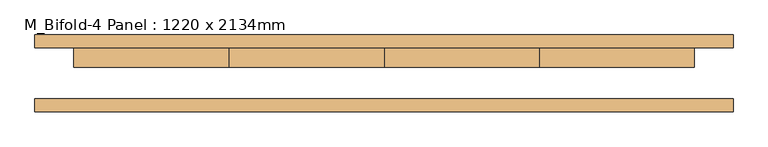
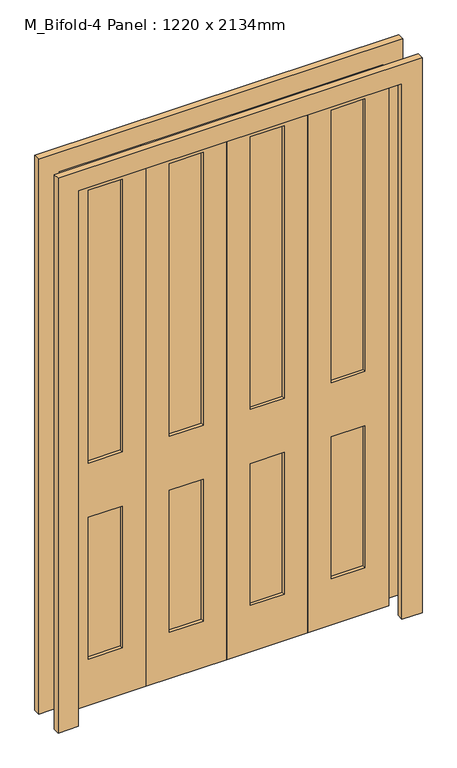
"""IFC4 building model written with IfcOpenShell, lengths in millimetres: door geometry, M_Bifold-4 Panel : 1220 x 2134mm."""

from ifc_helpers import new_model, si_unit, frame, origin, place, context, project, spatial, polyline, outline, extrude, source, transform, mapped, element, save


def m_bifold_4_panel_1220_x_2134mm_c9b228a8(model_context):
    return source(origin(), model_context, "Body", "SweptSolid", [
        extrude(outline(polyline([(393.9, 37.3), (521.1, 37.3), (521.1, 24.6), (393.9, 24.6), (393.9, 37.3)])), frame((0.0, 0.0, 965.2), z_axis=(0.0, 0.0, 1.0), x_axis=(1.0, 0.0, 0.0)), (0.0, 0.0, 1.0), 1086.25),
        extrude(outline(polyline([(393.9, 37.3), (521.1, 37.3), (521.1, 24.6), (393.9, 24.6), (393.9, 37.3)])), frame((0.0, 0.0, 184.15), z_axis=(0.0, 0.0, 1.0), x_axis=(1.0, 0.0, 0.0)), (0.0, 0.0, 1.0), 565.15),
        extrude(outline(polyline([(88.9, 37.3), (216.1, 37.3), (216.1, 24.6), (88.9, 24.6), (88.9, 37.3)])), frame((0.0, 0.0, 965.2), z_axis=(0.0, 0.0, 1.0), x_axis=(1.0, 0.0, 0.0)), (0.0, 0.0, 1.0), 1086.25),
        extrude(outline(polyline([(88.9, 37.3), (216.1, 37.3), (216.1, 24.6), (88.9, 24.6), (88.9, 37.3)])), frame((0.0, 0.0, 184.15), z_axis=(0.0, 0.0, 1.0), x_axis=(1.0, 0.0, 0.0)), (0.0, 0.0, 1.0), 565.15),
        extrude(outline(polyline([(-216.1, 37.3), (-88.9, 37.3), (-88.9, 24.6), (-216.1, 24.6), (-216.1, 37.3)])), frame((0.0, 0.0, 184.15), z_axis=(0.0, 0.0, 1.0), x_axis=(1.0, 0.0, 0.0)), (0.0, 0.0, 1.0), 565.15),
        extrude(outline(polyline([(-216.1, 37.3), (-88.9, 37.3), (-88.9, 24.6), (-216.1, 24.6), (-216.1, 37.3)])), frame((0.0, 0.0, 965.2), z_axis=(0.0, 0.0, 1.0), x_axis=(1.0, 0.0, 0.0)), (0.0, 0.0, 1.0), 1086.25),
        extrude(outline(polyline([(-521.1, 37.3), (-393.9, 37.3), (-393.9, 24.6), (-521.1, 24.6), (-521.1, 37.3)])), frame((0.0, 0.0, 965.2), z_axis=(0.0, 0.0, 1.0), x_axis=(1.0, 0.0, 0.0)), (0.0, 0.0, 1.0), 1086.25),
        extrude(outline(polyline([(-521.1, 37.3), (-393.9, 37.3), (-393.9, 24.6), (-521.1, 24.6), (-521.1, 37.3)])), frame((0.0, 0.0, 184.15), z_axis=(0.0, 0.0, 1.0), x_axis=(1.0, 0.0, 0.0)), (0.0, 0.0, 1.0), 565.15),
        extrude(outline(polyline([(0.0, 686.0), (2210.0, 686.0), (2210.0, -686.0), (0.0, -686.0), (0.0, -610.0), (2134.0, -610.0), (2134.0, 610.0), (0.0, 610.0), (0.0, 686.0)])), frame((0.0, -75.4, 0.0), z_axis=(0.0, 1.0, 0.0), x_axis=(0.0, 0.0, 1.0)), (0.0, 0.0, 1.0), 25.4),
        extrude(outline(polyline([(0.0, 686.0), (2210.0, 686.0), (2210.0, -686.0), (0.0, -686.0), (0.0, -610.0), (2134.0, -610.0), (2134.0, 610.0), (0.0, 610.0), (0.0, 686.0)])), frame((0.0, 50.0, 0.0), z_axis=(0.0, 1.0, 0.0), x_axis=(0.0, 0.0, 1.0)), (0.0, 0.0, 1.0), 25.4),
        extrude(outline(polyline([(0.0, -610.0), (0.0, -305.0), (2134.0, -305.0), (2134.0, -610.0), (0.0, -610.0)]), holes=[polyline([(2051.45, -521.1), (2051.45, -393.9), (965.2, -393.9), (965.2, -521.1), (2051.45, -521.1)]), polyline([(749.3, -521.1), (749.3, -393.9), (184.15, -393.9), (184.15, -521.1), (749.3, -521.1)])]), frame((0.0, 11.9, 0.0), z_axis=(0.0, 1.0, 0.0), x_axis=(0.0, 0.0, 1.0)), (0.0, 0.0, 1.0), 38.1),
        extrude(outline(polyline([(0.0, -305.0), (0.0, 0.0), (2134.0, 0.0), (2134.0, -305.0), (0.0, -305.0)]), holes=[polyline([(2051.45, -216.1), (2051.45, -88.9), (965.2, -88.9), (965.2, -216.1), (2051.45, -216.1)]), polyline([(749.3, -216.1), (749.3, -88.9), (184.15, -88.9), (184.15, -216.1), (749.3, -216.1)])]), frame((0.0, 11.9, 0.0), z_axis=(0.0, 1.0, 0.0), x_axis=(0.0, 0.0, 1.0)), (0.0, 0.0, 1.0), 38.1),
        extrude(outline(polyline([(0.0, 0.0), (0.0, 305.0), (2134.0, 305.0), (2134.0, 0.0), (0.0, 0.0)]), holes=[polyline([(2051.45, 88.9), (2051.45, 216.1), (965.2, 216.1), (965.2, 88.9), (2051.45, 88.9)]), polyline([(749.3, 88.9), (749.3, 216.1), (184.15, 216.1), (184.15, 88.9), (749.3, 88.9)])]), frame((0.0, 11.9, 0.0), z_axis=(0.0, 1.0, 0.0), x_axis=(0.0, 0.0, 1.0)), (0.0, 0.0, 1.0), 38.1),
        extrude(outline(polyline([(0.0, 305.0), (0.0, 610.0), (2134.0, 610.0), (2134.0, 305.0), (0.0, 305.0)]), holes=[polyline([(2051.45, 393.9), (2051.45, 521.1), (965.2, 521.1), (965.2, 393.9), (2051.45, 393.9)]), polyline([(749.3, 393.9), (749.3, 521.1), (184.15, 521.1), (184.15, 393.9), (749.3, 393.9)])]), frame((0.0, 11.9, 0.0), z_axis=(0.0, 1.0, 0.0), x_axis=(0.0, 0.0, 1.0)), (0.0, 0.0, 1.0), 38.1),
    ])


if __name__ == "__main__":
    model = new_model("IFC4")
    model_context = context("Model", 3, world=origin())
    ifc_project = project(units=[si_unit("LENGTHUNIT", "METRE", prefix="MILLI")], contexts=[model_context])
    site = spatial("IfcSite", under=ifc_project)
    building = spatial("IfcBuilding", under=site)
    placement = place(None, origin())
    m_bifold_4_panel_1220_x_2134mm_shape = m_bifold_4_panel_1220_x_2134mm_c9b228a8(model_context)
    element("IfcDoor", 1, ObjectType="M_Bifold-4 Panel : 1220 x 2134mm", at=placement, inside=building, context=model_context, shape_type="MappedRepresentation", body=[
        mapped(m_bifold_4_panel_1220_x_2134mm_shape, transform((0.0, 0.0, 0.0), x_axis=(1.0, 0.0, 0.0), y_axis=(0.0, 1.0, 0.0), z_axis=(0.0, 0.0, 1.0))),
    ])
    save(model, "model.ifc")
